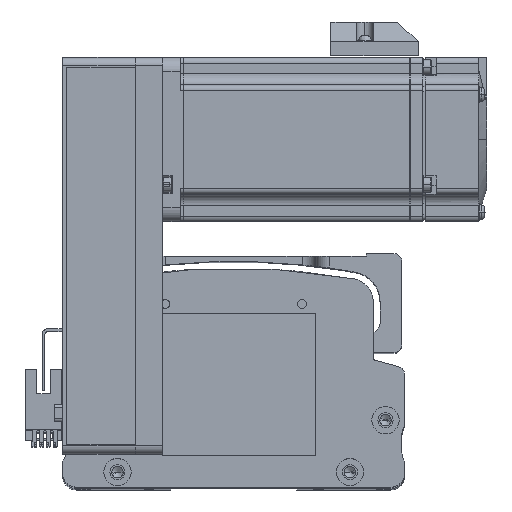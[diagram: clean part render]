
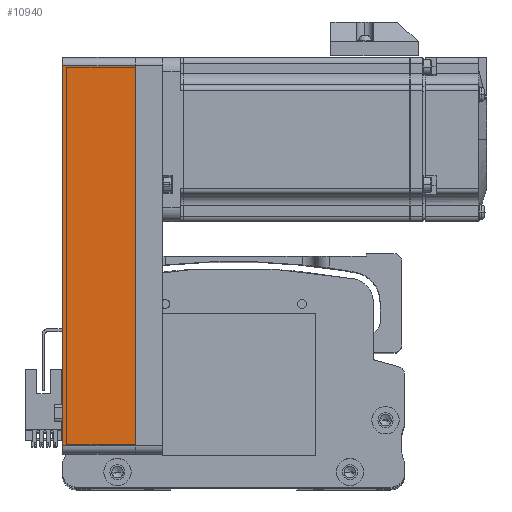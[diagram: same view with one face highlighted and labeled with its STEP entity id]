
A CAD part, top view. The second image highlights one B-rep face of the part: STEP entity #10940.
In plain terms, the highlighted planar face has unit normal (0, 0, 1) as drawn and (0, -1, 0) by its records, which use the part's own axes.
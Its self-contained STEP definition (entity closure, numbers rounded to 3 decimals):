
#782 = DIRECTION ( 'NONE',  ( 0., 1., 0. ) ) ;
#1778 = VECTOR ( 'NONE', #23762, 1000. ) ;
#6127 = AXIS2_PLACEMENT_3D ( 'NONE', #37500, #782, #43695 ) ;
#10940 = ADVANCED_FACE ( 'NONE', ( #71119 ), #43429, .F. ) ;
#14928 = CARTESIAN_POINT ( 'NONE',  ( -69.5, -30., 26.5 ) ) ;
#18977 = EDGE_LOOP ( 'NONE', ( #42462, #59888, #72903, #48862 ) ) ;
#22348 = VECTOR ( 'NONE', #36855, 1000. ) ;
#23762 = DIRECTION ( 'NONE',  ( 1., 0., 0. ) ) ;
#24697 = LINE ( 'NONE', #76633, #53480 ) ;
#25475 = LINE ( 'NONE', #74337, #41799 ) ;
#31391 = DIRECTION ( 'NONE',  ( 0., 0., -1. ) ) ;
#36327 = LINE ( 'NONE', #54315, #1778 ) ;
#36855 = DIRECTION ( 'NONE',  ( 0., 0., 1. ) ) ;
#37500 = CARTESIAN_POINT ( 'NONE',  ( 72.5, -30., 26.5 ) ) ;
#38509 = DIRECTION ( 'NONE',  ( 1., 0., 0. ) ) ;
#41799 = VECTOR ( 'NONE', #31391, 1000. ) ;
#42462 = ORIENTED_EDGE ( 'NONE', *, *, #65896, .T. ) ;
#42885 = CARTESIAN_POINT ( 'NONE',  ( 69.5, -30., 26.5 ) ) ;
#43429 = PLANE ( 'NONE',  #6127 ) ;
#43695 = DIRECTION ( 'NONE',  ( -1., 0., 0. ) ) ;
#45419 = CARTESIAN_POINT ( 'NONE',  ( -69.5, -30., 0. ) ) ;
#46607 = VERTEX_POINT ( 'NONE', #45419 ) ;
#46987 = VERTEX_POINT ( 'NONE', #50187 ) ;
#48862 = ORIENTED_EDGE ( 'NONE', *, *, #63573, .T. ) ;
#50187 = CARTESIAN_POINT ( 'NONE',  ( 69.5, -30., 0. ) ) ;
#52518 = EDGE_CURVE ( 'NONE', #68903, #67062, #36327, .T. ) ;
#53480 = VECTOR ( 'NONE', #38509, 1000. ) ;
#54315 = CARTESIAN_POINT ( 'NONE',  ( 72.5, -30., 26.5 ) ) ;
#59888 = ORIENTED_EDGE ( 'NONE', *, *, #67644, .T. ) ;
#63573 = EDGE_CURVE ( 'NONE', #68903, #46607, #25475, .T. ) ;
#65896 = EDGE_CURVE ( 'NONE', #46607, #46987, #24697, .T. ) ;
#67062 = VERTEX_POINT ( 'NONE', #42885 ) ;
#67438 = LINE ( 'NONE', #73635, #22348 ) ;
#67644 = EDGE_CURVE ( 'NONE', #46987, #67062, #67438, .T. ) ;
#68903 = VERTEX_POINT ( 'NONE', #14928 ) ;
#71119 = FACE_OUTER_BOUND ( 'NONE', #18977, .T. ) ;
#72903 = ORIENTED_EDGE ( 'NONE', *, *, #52518, .F. ) ;
#73635 = CARTESIAN_POINT ( 'NONE',  ( 69.5, -30., 26.5 ) ) ;
#74337 = CARTESIAN_POINT ( 'NONE',  ( -69.5, -30., 26.5 ) ) ;
#76633 = CARTESIAN_POINT ( 'NONE',  ( 72.5, -30., 0. ) ) ;
